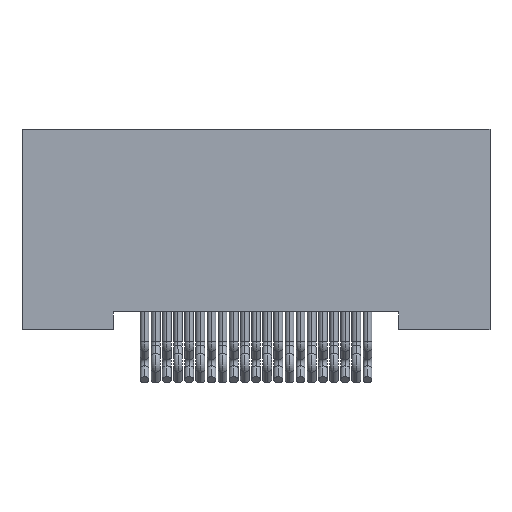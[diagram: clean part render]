
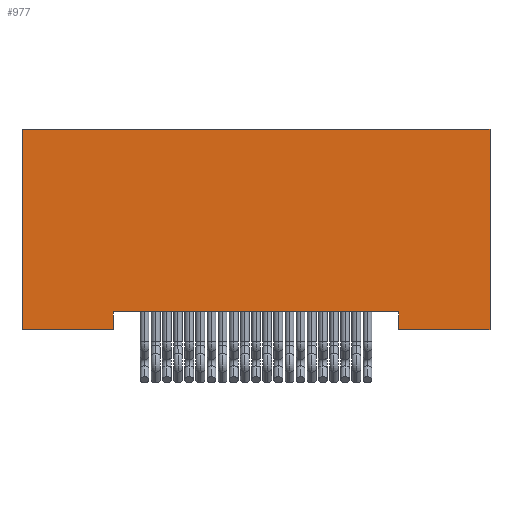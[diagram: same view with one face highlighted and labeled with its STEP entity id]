
A CAD part, front view. The second image highlights one B-rep face of the part: STEP entity #977.
In plain terms, the highlighted planar face has unit normal (0, -1, 0).
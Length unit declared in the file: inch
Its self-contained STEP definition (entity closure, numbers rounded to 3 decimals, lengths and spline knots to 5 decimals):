
#245 = CARTESIAN_POINT ( 'NONE',  ( 0.2625, -0.0575, -0.225 ) ) ;
#324 = PLANE ( 'NONE',  #8207 ) ;
#479 = DIRECTION ( 'NONE',  ( -1., 0., 0. ) ) ;
#977 = ADVANCED_FACE ( 'NONE', ( #18698 ), #324, .T. ) ;
#1855 = VECTOR ( 'NONE', #479, 39.37008 ) ;
#1866 = LINE ( 'NONE', #26049, #13986 ) ;
#2009 = EDGE_CURVE ( 'NONE', #2126, #13840, #26117, .T. ) ;
#2028 = CARTESIAN_POINT ( 'NONE',  ( -0.2625, -0.0575, 0. ) ) ;
#2126 = VERTEX_POINT ( 'NONE', #4685 ) ;
#2225 = CARTESIAN_POINT ( 'NONE',  ( 0.2625, -0.0575, -0.225 ) ) ;
#2886 = DIRECTION ( 'NONE',  ( 0., 0., 1. ) ) ;
#2891 = ORIENTED_EDGE ( 'NONE', *, *, #9173, .T. ) ;
#3045 = EDGE_CURVE ( 'NONE', #2126, #24160, #13971, .T. ) ;
#3992 = VECTOR ( 'NONE', #11577, 39.37008 ) ;
#4230 = DIRECTION ( 'NONE',  ( 1., 0., 0. ) ) ;
#4685 = CARTESIAN_POINT ( 'NONE',  ( 0.16, -0.0575, -0.205 ) ) ;
#4850 = EDGE_CURVE ( 'NONE', #26237, #22249, #22153, .T. ) ;
#4899 = DIRECTION ( 'NONE',  ( 1., 0., 0. ) ) ;
#5647 = DIRECTION ( 'NONE',  ( 0., 0., -1. ) ) ;
#7242 = EDGE_CURVE ( 'NONE', #13505, #22249, #10105, .T. ) ;
#7492 = ORIENTED_EDGE ( 'NONE', *, *, #22329, .T. ) ;
#8207 = AXIS2_PLACEMENT_3D ( 'NONE', #16162, #18541, #4899 ) ;
#8856 = VECTOR ( 'NONE', #11633, 39.37008 ) ;
#9173 = EDGE_CURVE ( 'NONE', #19481, #20597, #1866, .T. ) ;
#9316 = CARTESIAN_POINT ( 'NONE',  ( 0.2625, -0.0575, 0. ) ) ;
#10105 = LINE ( 'NONE', #2028, #22256 ) ;
#10273 = ORIENTED_EDGE ( 'NONE', *, *, #2009, .T. ) ;
#10884 = LINE ( 'NONE', #27815, #28331 ) ;
#11577 = DIRECTION ( 'NONE',  ( 0., 0., 1. ) ) ;
#11633 = DIRECTION ( 'NONE',  ( 0., 0., -1. ) ) ;
#12110 = CARTESIAN_POINT ( 'NONE',  ( -0.2625, -0.0575, -0.225 ) ) ;
#12390 = DIRECTION ( 'NONE',  ( 1., 0., 0. ) ) ;
#13505 = VERTEX_POINT ( 'NONE', #18037 ) ;
#13840 = VERTEX_POINT ( 'NONE', #28829 ) ;
#13971 = LINE ( 'NONE', #23143, #1855 ) ;
#13986 = VECTOR ( 'NONE', #12390, 39.37008 ) ;
#14201 = DIRECTION ( 'NONE',  ( 1., 0., 0. ) ) ;
#14244 = CARTESIAN_POINT ( 'NONE',  ( -0.2625, -0.0575, -0.225 ) ) ;
#14922 = LINE ( 'NONE', #25281, #8856 ) ;
#16162 = CARTESIAN_POINT ( 'NONE',  ( -0.2625, -0.0575, -0.225 ) ) ;
#16737 = CARTESIAN_POINT ( 'NONE',  ( -0.16, -0.0575, -0.205 ) ) ;
#18037 = CARTESIAN_POINT ( 'NONE',  ( -0.2625, -0.0575, 0. ) ) ;
#18541 = DIRECTION ( 'NONE',  ( 0., -1., 0. ) ) ;
#18698 = FACE_OUTER_BOUND ( 'NONE', #29009, .T. ) ;
#18820 = VECTOR ( 'NONE', #2886, 39.37008 ) ;
#19481 = VERTEX_POINT ( 'NONE', #12110 ) ;
#20597 = VERTEX_POINT ( 'NONE', #27790 ) ;
#21161 = EDGE_CURVE ( 'NONE', #24160, #20597, #14922, .T. ) ;
#21280 = EDGE_CURVE ( 'NONE', #19481, #13505, #24874, .T. ) ;
#22153 = LINE ( 'NONE', #245, #3992 ) ;
#22249 = VERTEX_POINT ( 'NONE', #9316 ) ;
#22256 = VECTOR ( 'NONE', #4230, 39.37008 ) ;
#22329 = EDGE_CURVE ( 'NONE', #13840, #26237, #10884, .T. ) ;
#23135 = ORIENTED_EDGE ( 'NONE', *, *, #21161, .F. ) ;
#23143 = CARTESIAN_POINT ( 'NONE',  ( 0.16, -0.0575, -0.205 ) ) ;
#23184 = ORIENTED_EDGE ( 'NONE', *, *, #7242, .F. ) ;
#23861 = CARTESIAN_POINT ( 'NONE',  ( 0.16, -0.0575, -0.205 ) ) ;
#23961 = VECTOR ( 'NONE', #5647, 39.37008 ) ;
#24160 = VERTEX_POINT ( 'NONE', #16737 ) ;
#24874 = LINE ( 'NONE', #14244, #18820 ) ;
#25281 = CARTESIAN_POINT ( 'NONE',  ( -0.16, -0.0575, -0.205 ) ) ;
#26049 = CARTESIAN_POINT ( 'NONE',  ( -0.2625, -0.0575, -0.225 ) ) ;
#26117 = LINE ( 'NONE', #23861, #23961 ) ;
#26171 = ORIENTED_EDGE ( 'NONE', *, *, #4850, .T. ) ;
#26237 = VERTEX_POINT ( 'NONE', #2225 ) ;
#27618 = ORIENTED_EDGE ( 'NONE', *, *, #21280, .F. ) ;
#27790 = CARTESIAN_POINT ( 'NONE',  ( -0.16, -0.0575, -0.225 ) ) ;
#27815 = CARTESIAN_POINT ( 'NONE',  ( -0.2625, -0.0575, -0.225 ) ) ;
#28085 = ORIENTED_EDGE ( 'NONE', *, *, #3045, .F. ) ;
#28331 = VECTOR ( 'NONE', #14201, 39.37008 ) ;
#28829 = CARTESIAN_POINT ( 'NONE',  ( 0.16, -0.0575, -0.225 ) ) ;
#29009 = EDGE_LOOP ( 'NONE', ( #10273, #7492, #26171, #23184, #27618, #2891, #23135, #28085 ) ) ;
